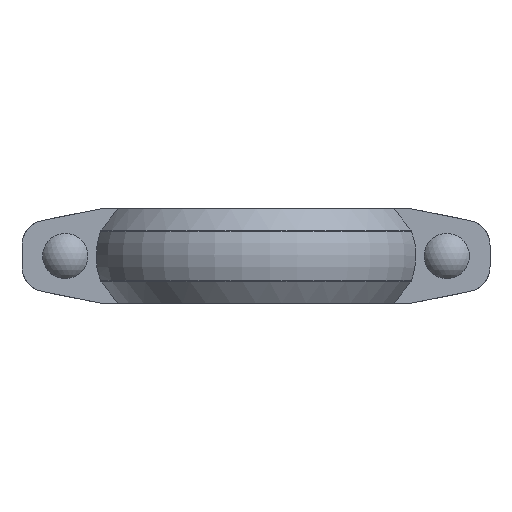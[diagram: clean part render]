
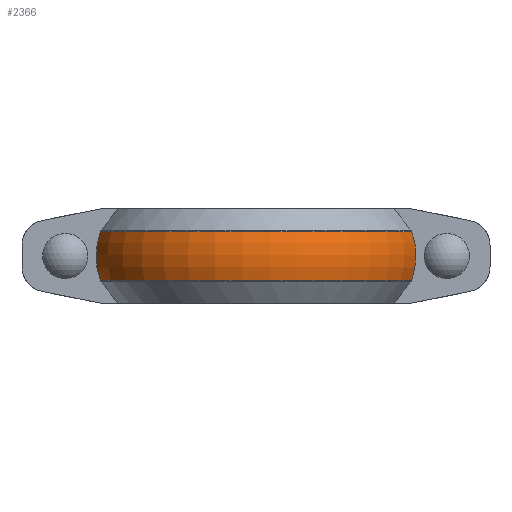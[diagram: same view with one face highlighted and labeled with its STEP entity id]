
A CAD part, front view. The second image highlights one B-rep face of the part: STEP entity #2366.
In plain terms, the highlighted toroidal (fillet/blend) face has major radius 57.433 mm and minor radius 44.167 mm.
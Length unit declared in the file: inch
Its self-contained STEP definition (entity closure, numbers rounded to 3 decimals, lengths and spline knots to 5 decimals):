
#47=TOROIDAL_SURFACE('',#2622,2.26114,1.73886);
#77=B_SPLINE_CURVE_WITH_KNOTS('',3,(#4503,#4504,#4505,#4506,#4507,#4508,
#4509,#4510,#4511,#4512),.UNSPECIFIED.,.F.,.F.,(4,2,2,2,4),(33.12977,
33.71724,34.53353,35.34983,35.9373),
 .UNSPECIFIED.);
#80=B_SPLINE_CURVE_WITH_KNOTS('',3,(#4533,#4534,#4535,#4536,#4537,#4538,
#4539,#4540,#4541,#4542),.UNSPECIFIED.,.F.,.F.,(4,2,2,2,4),(10.10741,
10.69488,11.51118,12.32748,12.91494),
 .UNSPECIFIED.);
#321=FACE_OUTER_BOUND('',#457,.T.);
#457=EDGE_LOOP('',(#2044,#2045,#2046,#2047));
#879=CIRCLE('',#2614,3.90152);
#884=CIRCLE('',#2623,3.90152);
#1085=VERTEX_POINT('',#4495);
#1086=VERTEX_POINT('',#4502);
#1089=VERTEX_POINT('',#4525);
#1090=VERTEX_POINT('',#4532);
#1398=EDGE_CURVE('',#1086,#1085,#77,.T.);
#1402=EDGE_CURVE('',#1090,#1089,#80,.T.);
#1415=EDGE_CURVE('',#1086,#1089,#879,.T.);
#1420=EDGE_CURVE('',#1090,#1085,#884,.T.);
#2044=ORIENTED_EDGE('',*,*,#1402,.T.);
#2045=ORIENTED_EDGE('',*,*,#1415,.F.);
#2046=ORIENTED_EDGE('',*,*,#1398,.T.);
#2047=ORIENTED_EDGE('',*,*,#1420,.F.);
#2366=ADVANCED_FACE('',(#321),#47,.T.);
#2614=AXIS2_PLACEMENT_3D('',#4596,#3255,#3256);
#2622=AXIS2_PLACEMENT_3D('',#4604,#3271,#3272);
#2623=AXIS2_PLACEMENT_3D('',#4605,#3273,#3274);
#3255=DIRECTION('center_axis',(0.,0.,-1.));
#3256=DIRECTION('ref_axis',(0.,1.,0.));
#3271=DIRECTION('center_axis',(0.,0.,-1.));
#3272=DIRECTION('ref_axis',(1.,0.,0.));
#3273=DIRECTION('center_axis',(0.,0.,1.));
#3274=DIRECTION('ref_axis',(0.,1.,0.));
#4495=CARTESIAN_POINT('',(3.69923,-1.24,0.57687));
#4502=CARTESIAN_POINT('',(3.69923,-1.24,-0.57687));
#4503=CARTESIAN_POINT('Ctrl Pts',(3.69923,-1.24,-0.57687));
#4504=CARTESIAN_POINT('Ctrl Pts',(3.72721,-1.24,-0.50142));
#4505=CARTESIAN_POINT('Ctrl Pts',(3.75082,-1.24,-0.42051));
#4506=CARTESIAN_POINT('Ctrl Pts',(3.79184,-1.24,-0.22403));
#4507=CARTESIAN_POINT('Ctrl Pts',(3.80295,-1.24,-0.10713));
#4508=CARTESIAN_POINT('Ctrl Pts',(3.80295,-1.24,0.10713));
#4509=CARTESIAN_POINT('Ctrl Pts',(3.79184,-1.24,0.22403));
#4510=CARTESIAN_POINT('Ctrl Pts',(3.75082,-1.24,0.42051));
#4511=CARTESIAN_POINT('Ctrl Pts',(3.72721,-1.24,0.50142));
#4512=CARTESIAN_POINT('Ctrl Pts',(3.69923,-1.24,0.57687));
#4525=CARTESIAN_POINT('',(-3.69923,-1.24,-0.57687));
#4532=CARTESIAN_POINT('',(-3.69923,-1.24,0.57687));
#4533=CARTESIAN_POINT('Ctrl Pts',(-3.69923,-1.24,0.57687));
#4534=CARTESIAN_POINT('Ctrl Pts',(-3.72721,-1.24,0.50142));
#4535=CARTESIAN_POINT('Ctrl Pts',(-3.75082,-1.24,0.42051));
#4536=CARTESIAN_POINT('Ctrl Pts',(-3.79184,-1.24,0.22403));
#4537=CARTESIAN_POINT('Ctrl Pts',(-3.80295,-1.24,0.10713));
#4538=CARTESIAN_POINT('Ctrl Pts',(-3.80295,-1.24,-0.10713));
#4539=CARTESIAN_POINT('Ctrl Pts',(-3.79184,-1.24,-0.22403));
#4540=CARTESIAN_POINT('Ctrl Pts',(-3.75082,-1.24,-0.42051));
#4541=CARTESIAN_POINT('Ctrl Pts',(-3.72721,-1.24,-0.50142));
#4542=CARTESIAN_POINT('Ctrl Pts',(-3.69923,-1.24,-0.57687));
#4596=CARTESIAN_POINT('Origin',(0.,0.,-0.57687));
#4604=CARTESIAN_POINT('Origin',(0.,0.,0.));
#4605=CARTESIAN_POINT('Origin',(0.,0.,0.57687));
